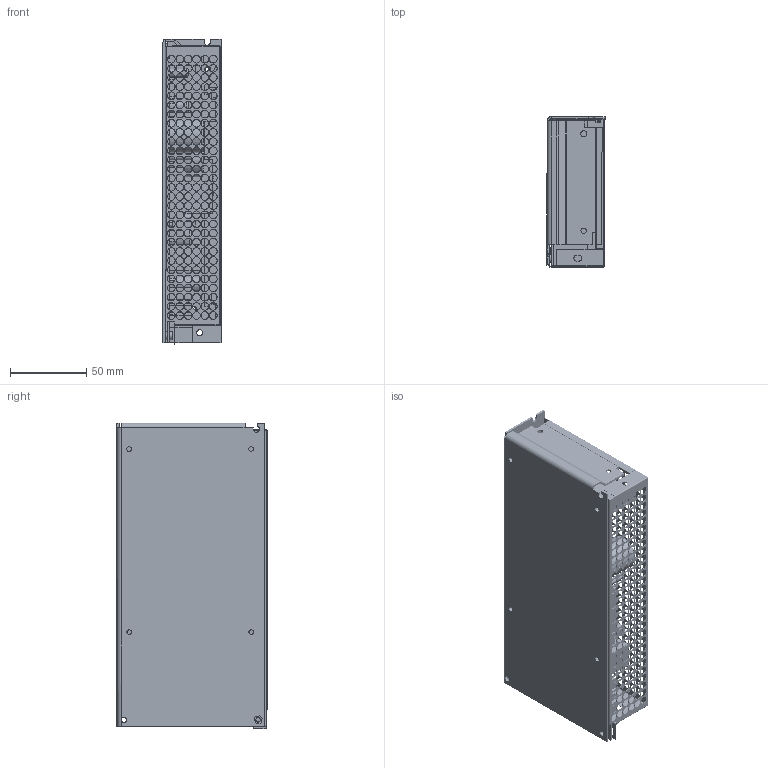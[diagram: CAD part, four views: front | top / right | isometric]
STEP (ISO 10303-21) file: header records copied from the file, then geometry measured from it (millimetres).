
FILE_DESCRIPTION(/* description */ (''),/* implementation_level */ '2;1');
FILE_NAME(/* name */ 'F:\file_Step\vỏ_2.stp',/* time_stamp */ '2019-10-03T16:26:11+07:00',/* author */ ('thanh'),/* organization */ (''),/* preprocessor_version */ 'ST-DEVELOPER v18',/* originating_system */ 'Autodesk Inventor 2020',/* authorisation */ '');
FILE_SCHEMA (('AUTOMOTIVE_DESIGN { 1 0 10303 214 3 1 1 }'));
Products named in the file (4): vỏ_2; vỏ 1; VO_2; chân cắm
Assembly tree (3 placements, depth 2):
  vỏ_2
    vỏ 1
    VO_2
    chân cắm
Bounding box: 38.12 x 98.5 x 200.5 mm (x, y, z)
Volume: 180608.2 mm3; surface area: 170873.7 mm2
Topology: 3 solids, 3 shells, 1776 faces, 4840 edges, 3131 vertices
Faces by surface type: cylinder 927, plane 706, torus 74, bspline 61, sphere 8
Full cylindrical faces by diameter (mm): 1 x14, 2.645 x1, 2.845 x1, 2.905 x1, 2.938 x1, 3 x8, 3.5 x1, 3.764 x2, 3.793 x1, 3.923 x1, 4 x11, 4.319 x1, 4.513 x1, 4.722 x1, 5 x619, 5.628 x1, 5.738 x1, 5.78 x1, 5.878 x1, 6.382 x1, 9.586 x1, 9.74 x1, 10.205 x1, 10.895 x1, 13.622 x1, 22 x2, 28.84 x1
Entity records: 61408 total; most frequent: CARTESIAN_POINT 10996, DIRECTION 10464, ORIENTED_EDGE 9676, EDGE_CURVE 4838, AXIS2_PLACEMENT_3D 3996, EDGE_LOOP 3155, VERTEX_POINT 3131, LINE 2472
